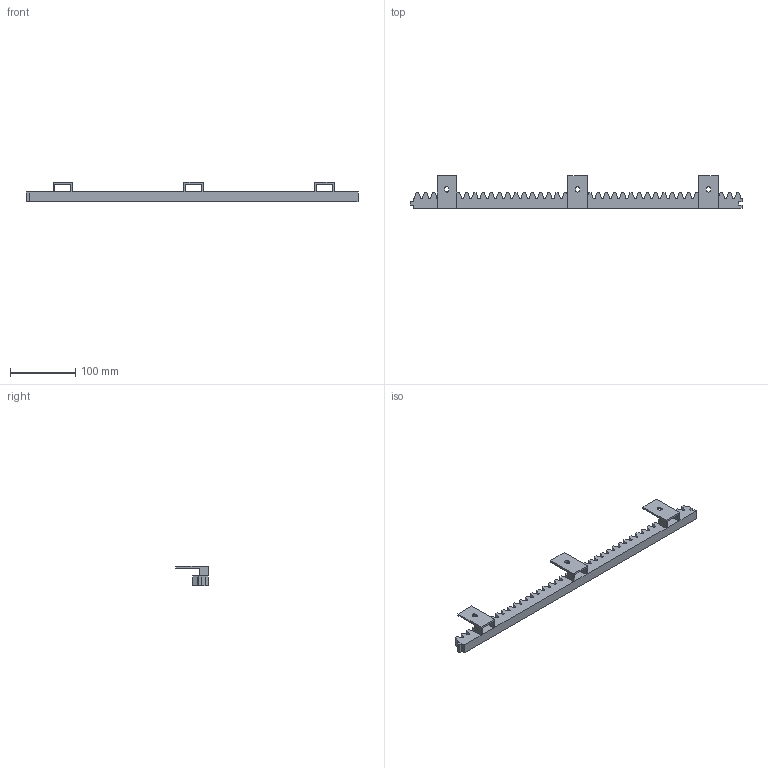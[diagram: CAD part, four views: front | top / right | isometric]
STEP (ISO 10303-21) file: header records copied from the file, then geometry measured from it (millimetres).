
FILE_DESCRIPTION (( 'STEP AP203' ), '1' );
FILE_NAME ('Crémaillère m=4 - 40 dents.STEP', '2025-09-18T12:08:30', ( '' ), ( '' ), 'SwSTEP 2.0', 'SolidWorks 2019', '' );
FILE_SCHEMA (( 'CONFIG_CONTROL_DESIGN' ));
Length unit declared in the file: millimetre
Products named in the file (1): Cr幦aill鋨e m=4 - 40 dents
Bounding box: 507.65 x 50 x 30 mm (x, y, z)
Volume: 165358.6 mm3; surface area: 55296.1 mm2
Topology: 1 solids, 1 shells, 293 faces, 882 edges, 588 vertices
Faces by surface type: plane 207, cylinder 86
Entity records: 9969 total; most frequent: CARTESIAN_POINT 1764, ORIENTED_EDGE 1764, DIRECTION 1642, EDGE_CURVE 882, VECTOR 710, LINE 710, VERTEX_POINT 588, AXIS2_PLACEMENT_3D 466
